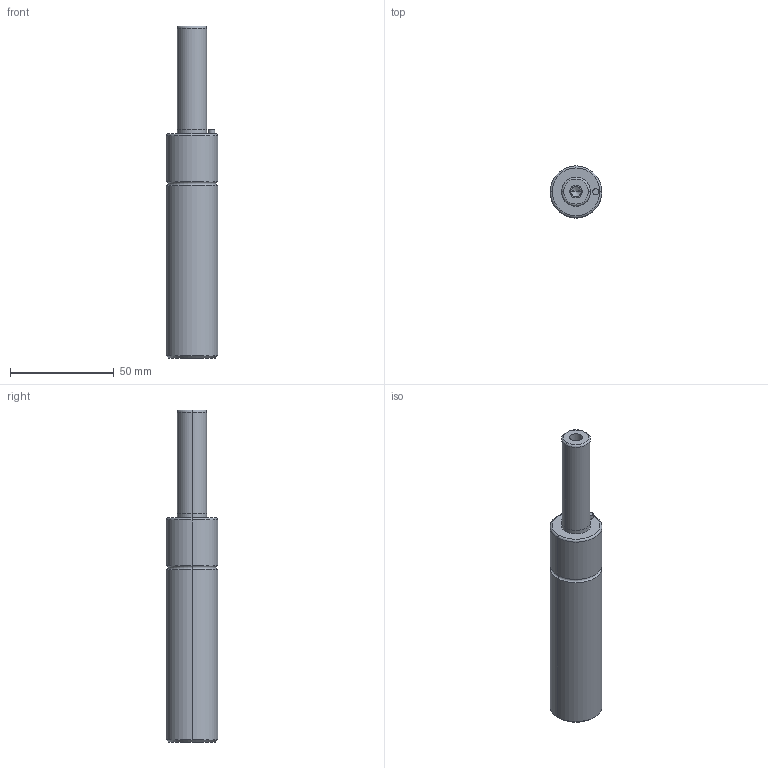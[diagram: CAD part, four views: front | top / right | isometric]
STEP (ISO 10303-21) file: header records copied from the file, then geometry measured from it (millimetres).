
FILE_DESCRIPTION(/* description */ (''),/* implementation_level */ '2;1');
FILE_NAME(/* name */ '3d_gsm25-50_03948_r00.stp',/* time_stamp */ '2011-01-10T14:15:17+09:00',/* author */ ('MISUMI'),/* organization */ (''),/* preprocessor_version */ 'ST-DEVELOPER v11',/* originating_system */ 'UGS - NX 5.0',/* authorisation */ '');
FILE_SCHEMA (('CONFIG_CONTROL_DESIGN'));
Length unit declared in the file: millimetre
Products named in the file (1): 3d_gsm25-50_03948_r00
Bounding box: 25 x 25 x 160 mm (x, y, z)
Volume: 60307.7 mm3; surface area: 12110.8 mm2
Topology: 1 solids, 1 shells, 36 faces, 74 edges, 42 vertices
Faces by surface type: cylinder 18, cone 6, plane 6, torus 6
Entity records: 1014 total; most frequent: DIRECTION 190, CARTESIAN_POINT 149, ORIENTED_EDGE 140, AXIS2_PLACEMENT_3D 83, EDGE_CURVE 70, CIRCLE 46, EDGE_LOOP 42, VERTEX_POINT 42
